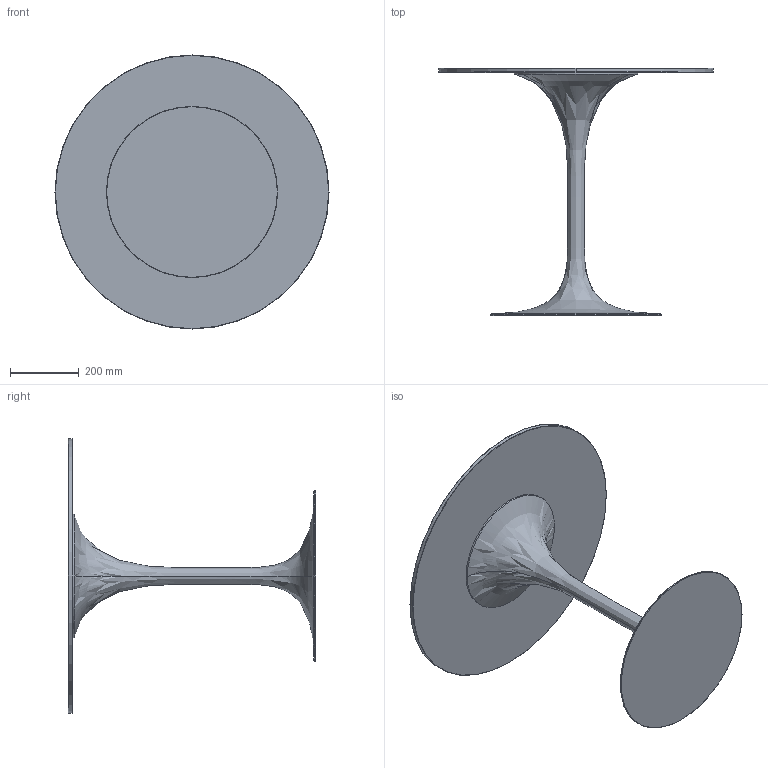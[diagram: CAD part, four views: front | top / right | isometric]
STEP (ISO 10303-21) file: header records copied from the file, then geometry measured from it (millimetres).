
FILE_DESCRIPTION (( 'STEP AP203' ), '1' );
FILE_NAME ('SATURNO_H72_DIAM80.STEP', '2014-12-22T10:31:10', ( '' ), ( '' ), 'SwSTEP 2.0', 'SolidWorks 2014', '' );
FILE_SCHEMA (( 'CONFIG_CONTROL_DESIGN' ));
Length unit declared in the file: millimetre
Products named in the file (1): SATURNO_H72_DIAM80
Bounding box: 800 x 722 x 800 mm (x, y, z)
Volume: 15041694.9 mm3; surface area: 1757053.1 mm2
Topology: 2 solids, 2 shells, 20 faces, 40 edges, 24 vertices
Faces by surface type: torus 8, cylinder 6, plane 4, bspline 2
Entity records: 701 total; most frequent: CARTESIAN_POINT 191, DIRECTION 108, ORIENTED_EDGE 80, AXIS2_PLACEMENT_3D 51, EDGE_CURVE 40, CIRCLE 32, VERTEX_POINT 24, FACE_OUTER_BOUND 20
